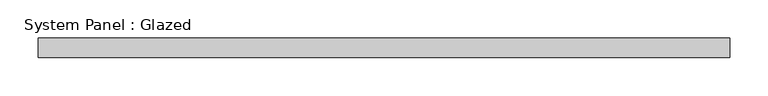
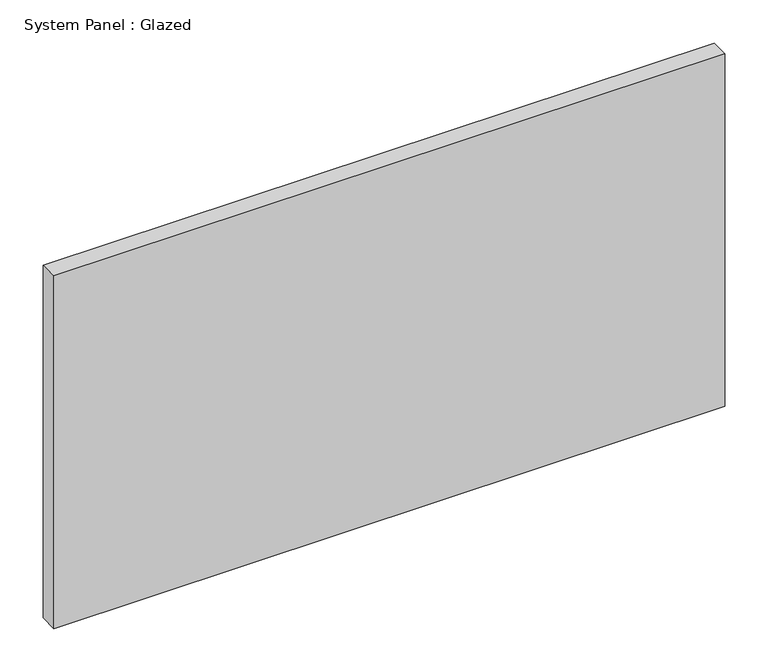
"""IFC4 building model written with IfcOpenShell, lengths in millimetres: plate geometry, System Panel : Glazed."""

from ifc_helpers import new_model, si_unit, origin, origin_with_axes, place, context, project, spatial, polyline, outline, extrude, source, transform, mapped, element, save


def system_panel_glazed_1cea1c28(model_context):
    return source(origin(), model_context, "Body", "SweptSolid", [
        extrude(outline(polyline([(450.0, -49.5), (-450.0, -49.5), (-450.0, -24.5), (450.0, -24.5), (450.0, -49.5)])), origin_with_axes(), (0.0, 0.0, 1.0), 500.0),
    ])


if __name__ == "__main__":
    model = new_model("IFC4")
    model_context = context("Model", 3, world=origin())
    ifc_project = project(units=[si_unit("LENGTHUNIT", "METRE", prefix="MILLI")], contexts=[model_context])
    site = spatial("IfcSite", under=ifc_project)
    building = spatial("IfcBuilding", under=site)
    placement = place(None, origin())
    system_panel_glazed_shape = system_panel_glazed_1cea1c28(model_context)
    element("IfcPlate", 1, ObjectType="System Panel : Glazed", at=placement, inside=building, context=model_context, shape_type="MappedRepresentation", body=[
        mapped(system_panel_glazed_shape, transform((0.0, 0.0, 0.0), x_axis=(1.0, 0.0, 0.0), y_axis=(0.0, 1.0, 0.0), z_axis=(0.0, 0.0, 1.0))),
    ])
    save(model, "model.ifc")
